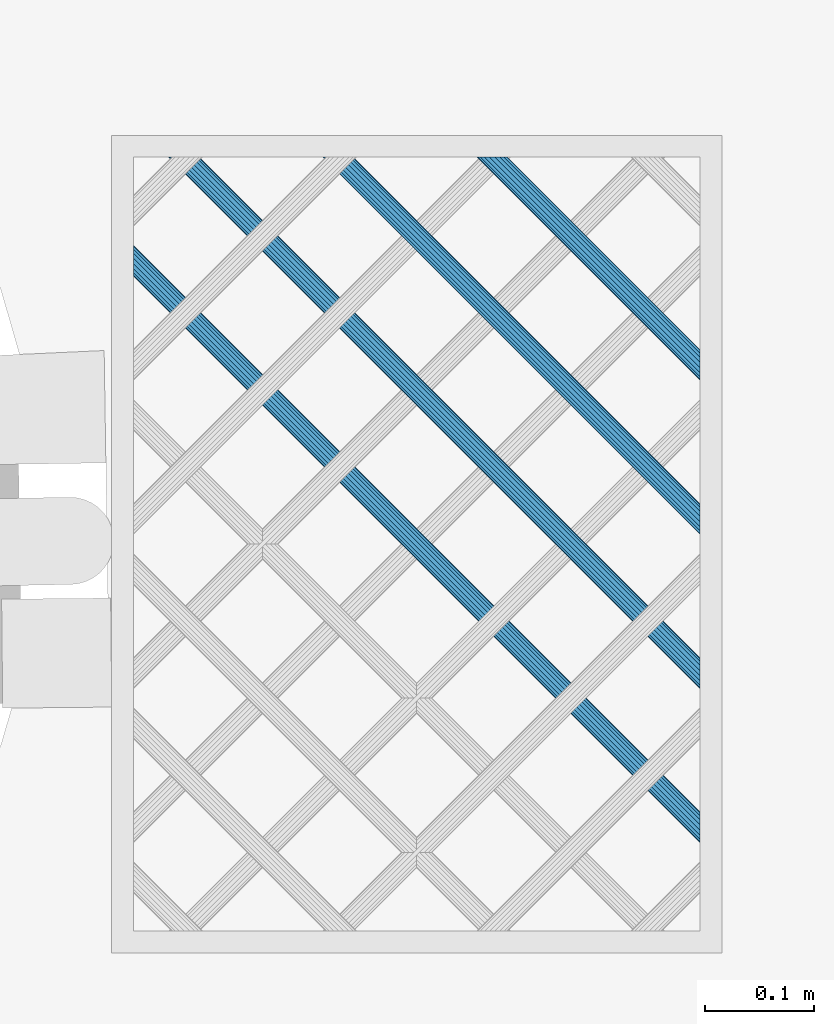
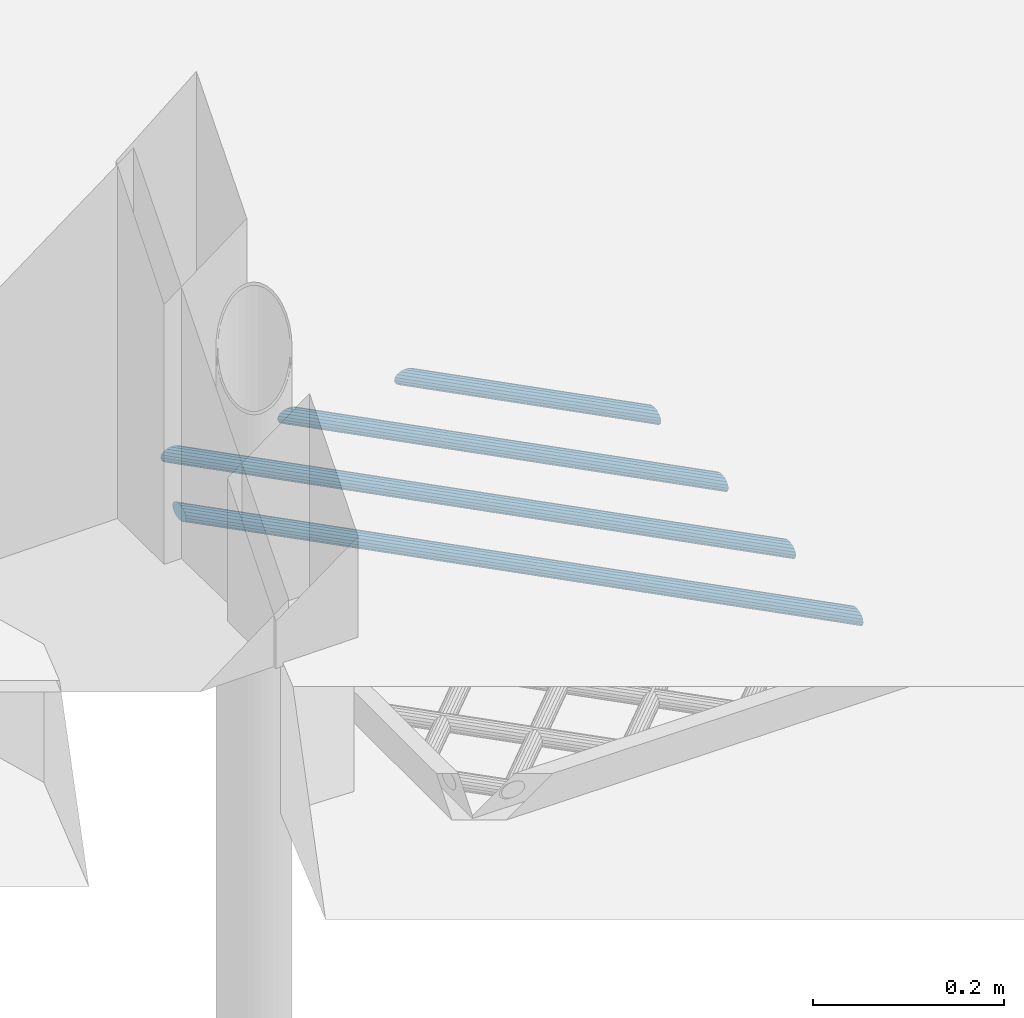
# One storey, part 47 of 133: 4 members, 1 element without a shape of its own.
"""IFC2X3 building model written with IfcOpenShell, lengths in centimetres."""

from ifc_helpers import new_model, entity, si_unit, converted_unit, direction, frame, origin, origin_with_axes, place, context, subcontext, project, spatial, faceted_brep, material, type_object, element, aggregate, save


model = new_model("IFC2X3")

# Units and contexts
model_context = context("Model", 3, precision=0.0001, world=origin(), true_north=direction((0.225632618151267, 0.974212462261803, 0.0)))
body_context = subcontext(model_context, "Body", "Model", "MODEL_VIEW")
ifc_project = project(units=[si_unit("LENGTHUNIT", "METRE", prefix="CENTI"), si_unit("AREAUNIT", "SQUARE_METRE", prefix="CENTI"), si_unit("VOLUMEUNIT", "CUBIC_METRE", prefix="CENTI"), converted_unit("PLANEANGLEUNIT", "DEGREE", entity("IfcRatioMeasure", 0.0174532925), si_unit("PLANEANGLEUNIT", "RADIAN"), dimensions=[0, 0, 0, 0, 0, 0, 0])], contexts=[model_context])

# Site, building, storey
site_placement = place(None, origin_with_axes())
site = spatial("IfcSite", under=ifc_project, at=site_placement, Name="Default Site", CompositionType="ELEMENT")
building_placement = place(site_placement, origin_with_axes())
building = spatial("IfcBuilding", under=site, at=building_placement, Name="Default Building", CompositionType="ELEMENT")
storey_placement = place(building_placement, frame((0.0, 0.0, -291.400371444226), z_axis=(0.0, 0.0, 1.0), x_axis=(1.0, 0.0, 0.0)))
storey = spatial("IfcBuildingStorey", under=building, at=storey_placement, Name="Rez-de-Jardin", CompositionType="ELEMENT", Elevation=-291.400371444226)

# Assembly, members
building_element_proxy_type = type_object("IfcBuildingElementProxyType", Name="Type Object", PredefinedType="NOTDEFINED")
assembly_placement = place(storey_placement, frame((1661.43547545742, -586.48555921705, 97.0), z_axis=(0.0, 1.0, -2.38697950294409e-15), x_axis=(1.0, 0.0, 0.0)))
assembly = element("IfcElementAssembly", 1, at=assembly_placement, inside=storey, type_object=building_element_proxy_type, Name="Panneau 294972", ObjectType="Precast panel", PredefinedType="USERDEFINED")
ifc_material = material(Name="Aluminium satiné")
member_1_placement = place(assembly_placement, frame((54.000002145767, 0.342020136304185, 52.5974810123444), z_axis=(0.999999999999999, 0.0, 0.0), x_axis=(0.0, -0.774594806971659, -0.632457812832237)))
member_1 = element("IfcMember", 2, at=member_1_placement, material=ifc_material, Name="4294966991", context=body_context, shape_type="Brep", body=[
    faceted_brep([(-3.33066907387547e-14, 7.21644966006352e-14, 2.22044604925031e-14), (-0.388290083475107, 6.66133814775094e-14, 2.22044604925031e-14), (-0.799166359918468, -0.150246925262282, 2.22044604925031e-14), (-1.18307325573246, -0.432621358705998, 2.22044604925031e-14), (-1.49370756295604, -0.813066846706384, 2.22044604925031e-14), (-1.69359804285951, -1.24569095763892, 2.22044604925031e-14), (-1.75863665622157, -1.67831484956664, 2.22044604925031e-14), (-1.68098087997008, -2.05876033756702, 2.22044604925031e-14), (-1.4699913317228, -2.34113289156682, 2.22044604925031e-14), (-1.15112683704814, -2.4913869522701, 2.22044604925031e-14), (-0.762836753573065, -2.4913869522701, 2.22044604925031e-14), (-0.351960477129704, -2.34114002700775, 2.22044604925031e-14), (0.0319464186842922, -2.05876559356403, 2.22044604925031e-14), (0.342580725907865, -1.67832010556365, 2.22044604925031e-14), (0.542471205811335, -1.24569599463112, 2.22044604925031e-14), (0.607509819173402, -0.813072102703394, 2.22044604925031e-14), (0.529854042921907, -0.432626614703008, 2.22044604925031e-14), (0.318868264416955, -0.150249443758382, 2.22044604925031e-14), (-12.6388067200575, -16.0200000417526, -20.4878091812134), (-12.3738796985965, -16.2363133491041, -20.4025208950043), (-12.1409067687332, -16.4265360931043, -20.1569467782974), (-11.9679879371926, -16.567724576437, -19.7807013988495), (-11.8759797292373, -16.6428494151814, -19.3191707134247), (-11.8759797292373, -16.6428494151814, -18.8280194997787), (-11.9679879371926, -16.567724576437, -18.3664888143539), (-12.1409067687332, -16.4265360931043, -17.990243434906), (-12.3738796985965, -16.2363133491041, -17.7446693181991), (-12.6388067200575, -16.0200000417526, -17.65938103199), (-12.9037337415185, -15.803686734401, -17.7446693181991), (-13.1367066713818, -15.6134639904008, -17.990243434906), (-13.3096255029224, -15.4722755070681, -18.3664888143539), (-13.4016337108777, -15.3971506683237, -18.8280194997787), (-13.4016337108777, -15.3971506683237, -19.3191707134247), (-13.3096255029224, -15.4722755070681, -19.7807013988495), (-13.1367066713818, -15.6134639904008, -20.1569467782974), (-12.9037337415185, -15.803686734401, -20.4025208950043), (0.529854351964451, -0.432626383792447, -3.74318470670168e-07), (-12.373879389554, -16.2363131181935, -20.4025212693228), (0.607510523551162, -0.813071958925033, -5.56859167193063e-07), (-12.1409074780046, -16.4265362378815, -20.1569462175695), (0.54247070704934, -1.24569591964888, 2.57365087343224e-07), (-11.9679884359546, -16.5677245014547, -19.7807011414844), (-12.1409079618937, -16.4265359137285, -20.1569461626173), (0.342580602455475, -1.67832004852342, 3.38953879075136e-08), (-11.8759798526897, -16.6428493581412, -19.3191706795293), (0.0319464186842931, -2.05876559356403, 2.22044604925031e-14), (-0.351960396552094, -2.34114013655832, 3.38953865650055e-08), (-11.9679874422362, -16.5677252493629, -18.3664886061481), (-11.8759793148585, -16.6428499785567, -18.8280193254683), (-0.762836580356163, -2.49138742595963, 2.57365088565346e-07), (-12.1409065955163, -16.4265365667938, -17.9902431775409), (-11.9679875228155, -16.567725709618, -18.3664881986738), (-1.15112683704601, -2.49138623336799, -5.56859167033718e-07), (-12.3738796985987, -16.2363140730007, -17.7446687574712), (-1.4699924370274, -2.34113523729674, 2.51604876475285e-06), (-12.6388071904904, -16.0200010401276, -17.6593799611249), (-12.3738803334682, -16.2363146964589, -17.7446678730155), (-1.68097880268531, -2.05875878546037, -2.51604871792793e-06), (-12.9037328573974, -15.803686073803, -17.7446703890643), (-12.6388055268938, -16.0199991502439, -17.6593824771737), (-1.75863736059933, -1.678314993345, 5.56859211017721e-07), (-13.1367073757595, -15.6134641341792, -17.9902428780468), (-12.9037351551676, -15.8036870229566, -17.744668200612), (-1.69359754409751, -1.24569103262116, -2.57365042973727e-07), (-13.3096261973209, -15.4722754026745, -18.3664884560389), (-13.1367066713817, -15.6134639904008, -17.990243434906), (-1.49370743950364, -0.813066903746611, -3.38953440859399e-08), (-13.4016342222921, -15.3971504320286, -18.8280193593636), (-13.3096261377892, -15.4722752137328, -18.3664886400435), (-1.18307325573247, -0.432621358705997, 2.22044604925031e-14), (-0.799166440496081, -0.150246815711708, -3.38953432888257e-08), (-13.3096255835, -15.4722753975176, -19.7807014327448), (-0.38829025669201, 4.73689596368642e-07, -2.57365044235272e-07), (-13.1367064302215, -15.6134646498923, -20.1569464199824), (-2.16293204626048e-12, -7.18902043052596e-07, 5.56859214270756e-07), (-12.9037337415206, -15.8036874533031, -20.4025203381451), (-13.136706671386, -15.6134654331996, -20.1569456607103), (0.31886809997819, -0.150249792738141, 3.743185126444e-07), (-12.6388068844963, -16.0200003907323, -20.4878088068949)], [[[0, 1, 2, 3, 4, 5, 6, 7, 8, 9, 10, 11, 12, 13, 14, 15, 16, 17]], [[18, 19, 20, 21, 22, 23, 24, 25, 26, 27, 28, 29, 30, 31, 32, 33, 34, 35]], [[17, 36, 37, 18]], [[16, 38, 39, 19]], [[15, 40, 41, 42]], [[14, 43, 44, 21]], [[13, 45, 23, 22]], [[12, 46, 47, 48]], [[11, 49, 50, 51]], [[10, 52, 53, 25]], [[9, 54, 55, 56]], [[8, 57, 58, 59]], [[7, 60, 61, 62]], [[6, 63, 64, 65]], [[5, 66, 67, 68]], [[4, 69, 32, 31]], [[3, 70, 71, 32]], [[2, 72, 73, 33]], [[1, 74, 75, 76]], [[0, 77, 78, 35]]]),
])
member_2_placement = place(assembly_placement, frame((54.000002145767, 0.342020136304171, 38.4553462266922), z_axis=(0.999999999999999, 0.0, 0.0), x_axis=(0.0, -0.774598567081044, -0.632453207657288)))
member_2 = element("IfcMember", 3, at=member_2_placement, material=ifc_material, Name="4294966990", context=body_context, shape_type="Brep", body=[
    faceted_brep([(3.05311331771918e-14, -1.66533453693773e-14, 0.0), (-0.388288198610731, -2.22044604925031e-14, 0.0), (-0.799165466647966, -0.15025167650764, 0.0), (-1.18307068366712, -0.432628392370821, 0.0), (-1.49370084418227, -0.813073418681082, 0.0), (-1.69358875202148, -1.24569871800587, 0.0), (-1.75862479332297, -1.6783229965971, 0.0), (-1.68096675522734, -2.05876802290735, 0.0), (-1.46997929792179, -2.3411439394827, 0.0), (-1.15111014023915, -2.49139148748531, 0.0), (-0.762820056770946, -2.49138917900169, 0.0), (-0.351944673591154, -2.34113981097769, 0.0), (0.0319605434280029, -2.05876309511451, 0.0), (0.342590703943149, -1.67831806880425, 0.0), (0.54247861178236, -1.24569276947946, 0.0), (0.607516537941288, -0.813066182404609, 0.0), (0.529856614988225, -0.432623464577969, 0.0), (0.318869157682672, -0.150247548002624, 0.0), (-21.5829499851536, -26.9745525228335, -34.6299439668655), (-21.3180216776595, -27.1908642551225, -34.5446571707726), (-21.0850476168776, -27.3810856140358, -34.2990815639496), (-20.9121279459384, -27.5222730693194, -33.9228376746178), (-20.8201192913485, -27.5973973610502, -33.461306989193), (-20.8201192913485, -27.5973973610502, -32.970155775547), (-20.9121279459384, -27.5222730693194, -32.5086236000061), (-21.0850476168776, -27.3810856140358, -32.1323812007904), (-21.3180216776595, -27.1908642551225, -31.8868055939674), (-21.5829499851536, -26.9745525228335, -31.8015173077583), (-21.8478782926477, -26.7582407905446, -31.8868055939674), (-22.0808523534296, -26.5680194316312, -32.1323812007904), (-22.2537720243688, -26.4268319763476, -32.5086236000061), (-22.3457806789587, -26.3517076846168, -32.970155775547), (-22.3457806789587, -26.3517076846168, -33.461306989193), (-22.2537720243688, -26.4268319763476, -33.9228376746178), (-22.0808523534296, -26.5680194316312, -34.2990815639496), (-21.8478782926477, -26.7582407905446, -34.5446571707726), (0.529856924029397, -0.432623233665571, -3.74318493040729e-07), (-21.3180219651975, -27.190864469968, -34.5446568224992), (0.607515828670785, -0.813066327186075, 5.60727920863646e-07), (-21.0850483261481, -27.3810857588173, -34.2990810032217), (-21.3180223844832, -27.1908643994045, -34.544656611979), (0.542479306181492, -1.24569287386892, -3.58315028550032e-07), (-20.9121278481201, -27.5222730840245, -33.9228377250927), (0.34259058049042, -1.67831801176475, 3.38953656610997e-08), (-20.8201197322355, -27.597397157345, -33.4613068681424), (-20.9121282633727, -27.5222729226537, -33.9228375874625), (0.0319605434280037, -2.05876309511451, 0.0), (-0.35194459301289, -2.34113992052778, 3.38953654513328e-08), (-20.9121278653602, -27.5222731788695, -32.5086235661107), (-20.8201190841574, -27.5973976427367, -32.9701556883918), (-0.762819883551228, -2.49138965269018, 2.57365065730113e-07), (-21.0850474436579, -27.3810860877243, -32.1323809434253), (-1.1511101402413, -2.49139076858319, -5.5685918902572e-07), (-21.3180216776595, -27.1908642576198, -31.8868055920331), (-1.4699791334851, -2.34114359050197, -3.74318493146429e-07), (-21.5829501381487, -26.9745528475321, -31.801516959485), (-21.3180219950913, -27.1908649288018, -31.8868048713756), (-1.68096706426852, -2.05876825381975, 3.74318495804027e-07), (-21.847879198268, -26.7582414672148, -31.8868044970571), (-21.5829505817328, -26.9745529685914, -31.8015165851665), (-1.75862549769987, -1.67832314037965, 5.56859188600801e-07), (-22.0808530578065, -26.5680195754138, -32.1323806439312), (-21.8478789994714, -26.7582409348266, -31.8868050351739), (-1.69358825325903, -1.24569879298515, -2.57365067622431e-07), (-22.2537715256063, -26.4268320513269, -32.5086238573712), (-1.49370072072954, -0.813073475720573, -3.38953650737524e-08), (-22.3457808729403, -26.3517075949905, -32.9701557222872), (-1.18307068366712, -0.43262839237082, 0.0), (-0.799165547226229, -0.150251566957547, -3.38953650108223e-08), (-22.2537718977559, -26.4268321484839, -33.9228376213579), (-22.3457804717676, -26.3517079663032, -33.4613069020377), (-0.388287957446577, -6.59490102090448e-07, 3.58315028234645e-07), (-22.0808521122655, -26.5680200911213, -34.2990812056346), (-22.2537718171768, -26.4268325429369, -33.9228373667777), (-2.12879824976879e-12, 7.23896601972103e-07, -5.60727917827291e-07), (-21.8478782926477, -26.7582407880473, -34.5446571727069), (0.318868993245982, -0.150247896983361, 3.74318490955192e-07), (-21.5829501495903, -26.9745528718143, -34.629943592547), (-21.8478786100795, -26.7582414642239, -34.5446564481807)], [[[0, 1, 2, 3, 4, 5, 6, 7, 8, 9, 10, 11, 12, 13, 14, 15, 16, 17]], [[18, 19, 20, 21, 22, 23, 24, 25, 26, 27, 28, 29, 30, 31, 32, 33, 34, 35]], [[17, 36, 37, 18]], [[16, 38, 39, 40]], [[15, 41, 42, 20]], [[14, 43, 44, 45]], [[13, 46, 23, 22]], [[12, 47, 48, 49]], [[11, 50, 51, 24]], [[10, 52, 53, 25]], [[9, 54, 55, 56]], [[8, 57, 58, 59]], [[7, 60, 61, 62]], [[6, 63, 64, 29]], [[5, 65, 66, 30]], [[4, 67, 32, 31]], [[3, 68, 69, 70]], [[2, 71, 72, 73]], [[1, 74, 75, 34]], [[0, 76, 77, 78]]]),
])
member_3_placement = place(assembly_placement, frame((54.000002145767, 0.342020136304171, 24.3132099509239), z_axis=(0.999999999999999, 0.0, 0.0), x_axis=(0.0, -0.774596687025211, -0.632455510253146)))
member_3 = element("IfcMember", 4, at=member_3_placement, material=ifc_material, Name="4294966989", context=body_context, shape_type="Brep", body=[
    faceted_brep([(5.55111512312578e-14, 8.32667268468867e-14, -3.33066907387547e-13), (-0.388289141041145, 8.60422844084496e-14, -3.33066907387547e-13), (-0.799165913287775, -0.150249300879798, -3.33066907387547e-13), (-1.18307102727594, -0.432623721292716, -3.33066907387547e-13), (-1.49370231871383, -0.813067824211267, -3.33066907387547e-13), (-1.69359339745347, -1.24569483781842, -3.33066907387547e-13), (-1.75863072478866, -1.67831892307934, -3.33066907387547e-13), (-1.6809738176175, -2.0587641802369, -3.33066907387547e-13), (-1.46998531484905, -2.34113841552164, -3.33066907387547e-13), (-1.15111848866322, -2.49138921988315, -3.33066907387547e-13), (-0.762828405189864, -2.49138806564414, -3.33066907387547e-13), (-0.351952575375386, -2.34113991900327, -3.33066907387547e-13), (0.0319553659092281, -2.05876203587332, -3.33066907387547e-13), (0.342586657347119, -1.67831793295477, -3.33066907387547e-13), (0.542474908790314, -1.24569438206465, -3.33066907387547e-13), (0.607513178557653, -0.813069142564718, -3.33066907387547e-13), (0.529855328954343, -0.432625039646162, -3.33066907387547e-13), (0.318868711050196, -0.150248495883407, -3.33066907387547e-13), (-30.5273021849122, -37.9289402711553, -48.7720802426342), (-30.262374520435, -38.1452527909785, -48.6867927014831), (-30.0294010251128, -38.3354748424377, -48.4412170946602), (-29.8564817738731, -38.4766628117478, -48.0649732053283), (-29.7644733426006, -38.5517873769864, -47.6034417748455), (-29.7644733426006, -38.5517873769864, -47.1122905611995), (-29.8564817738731, -38.4766628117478, -46.6507598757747), (-30.0294010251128, -38.3354748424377, -46.2745159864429), (-30.262374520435, -38.1452527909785, -46.0289403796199), (-30.5273021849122, -37.9289402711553, -45.9436528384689), (-30.7922298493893, -37.7126277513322, -46.0289403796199), (-31.0252033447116, -37.5224056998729, -46.2745159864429), (-31.1981225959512, -37.3812177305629, -46.6507598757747), (-31.2901310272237, -37.3060931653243, -47.1122905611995), (-31.2901310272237, -37.3060931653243, -47.6034417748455), (-31.1981225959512, -37.3812177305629, -48.0649732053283), (-31.0252033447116, -37.5224056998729, -48.4412170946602), (-30.7922298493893, -37.7126277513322, -48.6867927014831), (0.529855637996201, -0.432624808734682, -3.74318826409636e-07), (-30.2623745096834, -38.145252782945, -48.6867927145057), (0.607513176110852, -0.813069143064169, 1.93403346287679e-09), (-30.0294013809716, -38.3354749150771, -48.441216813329), (-30.2623748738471, -38.1452528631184, -48.6867924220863), (0.542475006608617, -1.24569439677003, -5.04753153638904e-08), (-29.8564819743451, -38.4766627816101, -48.0649731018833), (-30.029401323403, -38.3354747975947, -48.4412169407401), (0.342586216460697, -1.67831772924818, 1.21050267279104e-07), (-29.7644734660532, -38.5517873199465, -47.6034417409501), (-29.8564819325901, -38.4766627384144, -48.0649731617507), (0.0319553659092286, -2.05876203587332, -3.33066907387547e-13), (-0.351952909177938, -2.34113946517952, -1.40415436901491e-07), (-29.8564819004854, -38.4766626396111, -46.6507599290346), (-29.7644735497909, -38.5517870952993, -47.1122906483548), (-0.762828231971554, -2.49138853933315, 2.57364732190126e-07), (-30.0294008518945, -38.3354753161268, -46.2745157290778), (-29.8564815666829, -38.4766633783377, -46.6507595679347), (-1.15111848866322, -2.49138850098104, -5.56859521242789e-07), (-30.262374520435, -38.1452527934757, -46.0289403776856), (-1.469985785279, -2.34113941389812, 1.07086479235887e-06), (-30.5273024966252, -37.9289409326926, -45.9436521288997), (-30.2623748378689, -38.1452534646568, -46.0289396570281), (-1.68097293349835, -2.05876351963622, -1.07086545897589e-06), (-30.7922295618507, -37.7126275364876, -46.0289407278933), (-30.5273018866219, -37.9289400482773, -45.9436531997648), (-1.75863142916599, -1.67831906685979, 5.56858855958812e-07), (-31.0252040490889, -37.5224058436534, -46.2745154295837), (-30.7922305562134, -37.7126278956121, -46.0289398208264), (-1.69359289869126, -1.24569491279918, -2.57365398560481e-07), (-31.1981226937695, -37.3812177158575, -46.6507598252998), (-1.49370283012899, -0.813067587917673, 1.40414770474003e-07), (-31.290131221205, -37.3060930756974, -47.1122905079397), (-31.1981229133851, -37.3812175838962, -46.6507597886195), (-0.799166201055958, -0.150248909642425, -1.2105093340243e-07), (-31.1981227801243, -37.3812174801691, -48.0649732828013), (-31.2901312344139, -37.3060928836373, -47.6034418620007), (-0.388289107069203, -9.29008071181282e-08, 5.04746490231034e-08), (-31.0252032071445, -37.5224060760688, -48.4412168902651), (-31.1981224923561, -37.3812180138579, -48.0649730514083), (5.54854537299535e-14, 2.49734020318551e-09, -1.93470000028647e-09), (-30.7922298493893, -37.7126281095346, -48.6867924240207), (-31.0252033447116, -37.5224060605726, -48.4412168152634), (0.318868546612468, -0.150248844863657, 3.74318160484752e-07), (-30.5273023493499, -37.9289406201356, -48.7720798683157), (-30.7922300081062, -37.7126280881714, -48.6867923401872)], [[[0, 1, 2, 3, 4, 5, 6, 7, 8, 9, 10, 11, 12, 13, 14, 15, 16, 17]], [[18, 19, 20, 21, 22, 23, 24, 25, 26, 27, 28, 29, 30, 31, 32, 33, 34, 35]], [[17, 36, 37, 18]], [[16, 38, 39, 40]], [[15, 41, 42, 43]], [[14, 44, 45, 46]], [[13, 47, 23, 22]], [[12, 48, 49, 50]], [[11, 51, 52, 53]], [[10, 54, 55, 25]], [[9, 56, 57, 58]], [[8, 59, 60, 61]], [[7, 62, 63, 64]], [[6, 65, 66, 29]], [[5, 67, 68, 69]], [[4, 3, 32, 31]], [[3, 70, 71, 72]], [[2, 73, 74, 75]], [[1, 76, 77, 78]], [[0, 79, 80, 81]]]),
])
member_4_placement = place(assembly_placement, frame((54.000002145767, 0.342020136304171, 10.1710736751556), z_axis=(0.999999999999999, 0.0, 0.0), x_axis=(0.0, -0.774596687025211, -0.632455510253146)))
member_4 = element("IfcMember", 5, at=member_4_placement, material=ifc_material, Name="4294966988", context=body_context, shape_type="Brep", body=[
    faceted_brep([(2.77555756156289e-15, 1.06858966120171e-13, -3.33066907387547e-13), (-0.388289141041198, 1.06858966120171e-13, -3.33066907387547e-13), (-0.799165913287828, -0.150249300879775, -3.33066907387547e-13), (-1.18307244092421, -0.432625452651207, -3.33066907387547e-13), (-1.49370373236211, -0.813069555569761, -3.33066907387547e-13), (-1.69359292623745, -1.24569426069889, -3.33066907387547e-13), (-1.75863166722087, -1.67832007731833, -3.33066907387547e-13), (-1.68097381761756, -2.05876418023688, -3.33066907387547e-13), (-1.46998625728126, -2.34113956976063, -3.33066907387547e-13), (-1.15111848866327, -2.49138921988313, -3.33066907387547e-13), (-0.762829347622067, -2.49138921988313, -3.33066907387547e-13), (-0.351952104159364, -2.34113934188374, -3.33066907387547e-13), (0.0319539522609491, -2.05876376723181, -3.33066907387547e-13), (0.342585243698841, -1.67831966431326, -3.33066907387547e-13), (0.542474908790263, -1.24569438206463, -3.33066907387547e-13), (0.6075131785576, -0.813069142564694, -3.33066907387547e-13), (0.529855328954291, -0.432625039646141, -3.33066907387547e-13), (0.318868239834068, -0.150249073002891, -3.33066907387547e-13), (-32.5688166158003, -40.4292747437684, -52.0000021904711), (-32.3578299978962, -40.7116512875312, -52.0000021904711), (-32.280173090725, -41.0920965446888, -52.0000021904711), (-32.3452104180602, -41.5247206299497, -52.0000021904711), (-32.5450996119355, -41.9573453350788, -52.0000021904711), (-32.8557327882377, -42.3377917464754, -52.0000021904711), (-33.239638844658, -42.6201673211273, -52.0000021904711), (-33.6505146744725, -42.7704154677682, -52.0000021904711), (-34.0388047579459, -42.7704166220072, -52.0000021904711), (-34.357673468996, -42.6201681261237, -52.0000021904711), (-34.5686600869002, -42.3377915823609, -52.0000021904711), (-34.6463169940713, -41.9573463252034, -52.0000021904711), (-34.5812796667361, -41.5247222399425, -52.0000021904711), (-34.3813904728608, -41.0920975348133, -52.0000021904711), (-34.0707572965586, -40.7116511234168, -52.0000021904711), (-33.6868512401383, -40.4292755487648, -52.0000021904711), (-33.2759754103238, -40.279027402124, -52.0000021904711), (-32.8876853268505, -40.2790262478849, -52.0000021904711), (0.529855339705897, -0.432625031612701, -1.30229213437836e-08), (-32.3578316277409, -40.711652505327, -52.0000002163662), (-32.568818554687, -40.4292761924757, -51.9999998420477), (0.607513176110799, -0.813069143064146, 1.93403340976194e-09), (-32.280174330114, -41.092096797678, -52.000001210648), (-32.3578319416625, -40.7116516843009, -52.0000006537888), (0.542475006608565, -1.24569439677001, -5.04753143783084e-08), (-32.3452119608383, -41.5247203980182, -52.0000013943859), (-32.2801741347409, -41.092096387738, -52.000001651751), (0.342585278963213, -1.67831968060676, -9.68258508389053e-09), (-32.5451006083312, -41.9573448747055, -52.0000019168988), (-32.3452112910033, -41.5247202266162, -52.0000019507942), (-0.351952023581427, -2.34113945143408, 3.38950323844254e-08), (-33.2396385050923, -42.6201677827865, -52.0000020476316), (-32.8557325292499, -42.3377920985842, -52.000002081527), (-0.762829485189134, -2.49138884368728, -2.04395337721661e-07), (-33.6505142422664, -42.7704166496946, -52.0000015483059), (-33.2396385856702, -42.6201680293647, -52.000001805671), (-1.15111848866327, -2.49138922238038, 1.93403258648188e-09), (-34.0388047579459, -42.7704178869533, -52.000001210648), (-33.6505146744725, -42.7704174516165, -52.0000006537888), (-1.46998641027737, -2.34113989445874, 3.48272983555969e-07), (-34.3576738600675, -42.6201689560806, -52.0000013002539), (-34.0388053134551, -42.7704178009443, -52.0000009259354), (-1.68097353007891, -2.05876396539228, -3.48273648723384e-07), (-34.5686608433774, -42.3377921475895, -52.0000012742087), (-34.3576739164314, -42.6201684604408, -52.0000016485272), (-1.75863166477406, -1.67832007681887, -1.9346991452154e-09), (-34.6463189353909, -41.9573467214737, -52.0000006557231), (-34.5686613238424, -42.3377918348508, -52.0000012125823), (-1.69359332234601, -1.24569420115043, 2.04394671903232e-07), (-34.5812808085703, -41.5247220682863, -52.000001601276), (-34.6463186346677, -41.9573460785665, -52.0000013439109), (-1.49370360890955, -0.813069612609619, -3.38956984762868e-08), (-34.3813907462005, -41.0920974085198, -52.0000021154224), (-34.5812800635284, -41.5247220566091, -52.000002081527), (-0.799165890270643, -0.15024933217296, 9.68191884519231e-09), (-33.6868506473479, -40.4292763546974, -52.0000019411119), (-34.0707566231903, -40.7116520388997, -52.0000019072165), (-0.388289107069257, -9.290078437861e-08, 5.04746479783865e-08), (-33.2759750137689, -40.2790284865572, -52.000001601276), (-33.6868506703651, -40.4292771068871, -52.0000013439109), (2.74986007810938e-15, 2.49736206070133e-09, -1.93469865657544e-09), (-32.8876853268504, -40.279028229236, -52.0000006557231), (-33.2759754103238, -40.2790286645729, -52.0000012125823), (0.318868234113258, -0.150249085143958, 1.30222544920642e-08), (-32.5688176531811, -40.4292769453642, -51.9999998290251), (-32.8876861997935, -40.2790281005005, -52.0000002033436)], [[[0, 1, 2, 3, 4, 5, 6, 7, 8, 9, 10, 11, 12, 13, 14, 15, 16, 17]], [[18, 19, 20, 21, 22, 23, 24, 25, 26, 27, 28, 29, 30, 31, 32, 33, 34, 35]], [[17, 36, 37, 38]], [[16, 39, 40, 41]], [[15, 42, 43, 44]], [[14, 45, 46, 47]], [[13, 12, 23, 22]], [[12, 48, 49, 50]], [[11, 51, 52, 53]], [[10, 54, 55, 56]], [[9, 57, 58, 59]], [[8, 60, 61, 62]], [[7, 63, 64, 65]], [[6, 66, 67, 68]], [[5, 69, 70, 71]], [[4, 3, 32, 31]], [[3, 72, 73, 74]], [[2, 75, 76, 77]], [[1, 78, 79, 80]], [[0, 81, 82, 83]]]),
])
aggregate(assembly, [member_1, member_2, member_3, member_4])

save(model, "model.ifc")
